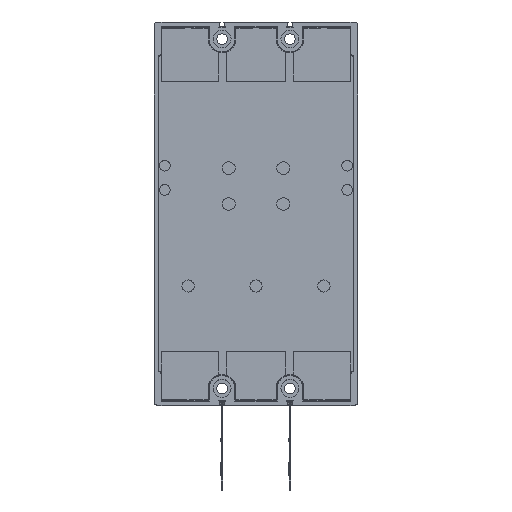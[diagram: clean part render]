
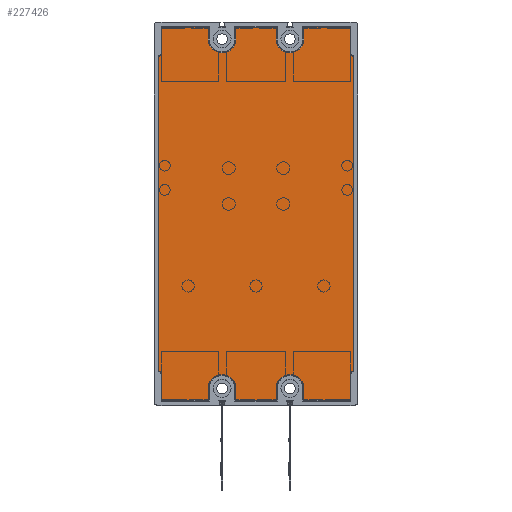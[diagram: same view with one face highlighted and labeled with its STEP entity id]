
A CAD part, top view. The second image highlights one B-rep face of the part: STEP entity #227426.
In plain terms, the highlighted planar face has unit normal (0, 0, 1).
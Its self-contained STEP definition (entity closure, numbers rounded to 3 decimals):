
#37750=CARTESIAN_POINT('',(204.85,32.75,65.5));
#37751=DIRECTION('',(0.,0.,-1.));
#37752=DIRECTION('',(-1.,0.,0.));
#37753=AXIS2_PLACEMENT_3D('',#37750,#37751,#37752);
#38140=CARTESIAN_POINT('',(5.15,32.75,65.5));
#38141=DIRECTION('',(0.,0.,-1.));
#38142=DIRECTION('',(0.,1.,0.));
#38143=AXIS2_PLACEMENT_3D('',#38140,#38141,#38142);
#38197=CARTESIAN_POINT('',(5.15,362.25,65.5));
#38198=DIRECTION('',(0.,0.,-1.));
#38199=DIRECTION('',(1.,0.,0.));
#38200=AXIS2_PLACEMENT_3D('',#38197,#38198,#38199);
#71326=CARTESIAN_POINT('',(204.85,362.25,65.5));
#71327=DIRECTION('',(0.,0.,-1.));
#71328=DIRECTION('',(0.,-1.,0.));
#71329=AXIS2_PLACEMENT_3D('',#71326,#71327,#71328);
#71348=DIRECTION('',(1.,0.,0.));
#71349=VECTOR('',#71348,48.1);
#71350=CARTESIAN_POINT('',(7.65,389.75,65.5));
#71351=LINE('',#71350,#71349);
#71352=DIRECTION('',(0.,1.,0.));
#71353=VECTOR('',#71352,12.25);
#71354=CARTESIAN_POINT('',(55.75,377.5,65.5));
#71355=LINE('',#71354,#71353);
#71356=CARTESIAN_POINT('',(70.,377.5,65.5));
#71357=DIRECTION('',(0.,0.,-1.));
#71358=DIRECTION('',(1.,0.,0.));
#71359=AXIS2_PLACEMENT_3D('',#71356,#71357,#71358);
#71361=DIRECTION('',(0.,-1.,0.));
#71362=VECTOR('',#71361,12.25);
#71363=CARTESIAN_POINT('',(84.25,389.75,65.5));
#71364=LINE('',#71363,#71362);
#71365=DIRECTION('',(1.,0.,0.));
#71366=VECTOR('',#71365,41.5);
#71367=CARTESIAN_POINT('',(84.25,389.75,65.5));
#71368=LINE('',#71367,#71366);
#71369=DIRECTION('',(0.,1.,0.));
#71370=VECTOR('',#71369,12.25);
#71371=CARTESIAN_POINT('',(125.75,377.5,65.5));
#71372=LINE('',#71371,#71370);
#71373=CARTESIAN_POINT('',(140.,377.5,65.5));
#71374=DIRECTION('',(0.,0.,-1.));
#71375=DIRECTION('',(1.,0.,0.));
#71376=AXIS2_PLACEMENT_3D('',#71373,#71374,#71375);
#71378=DIRECTION('',(0.,-1.,0.));
#71379=VECTOR('',#71378,12.25);
#71380=CARTESIAN_POINT('',(154.25,389.75,65.5));
#71381=LINE('',#71380,#71379);
#71382=DIRECTION('',(1.,0.,0.));
#71383=VECTOR('',#71382,48.1);
#71384=CARTESIAN_POINT('',(154.25,389.75,65.5));
#71385=LINE('',#71384,#71383);
#71386=DIRECTION('',(0.,1.,0.));
#71387=VECTOR('',#71386,27.5);
#71388=CARTESIAN_POINT('',(202.35,362.25,65.5));
#71389=LINE('',#71388,#71387);
#71390=DIRECTION('',(-1.,0.,0.));
#71391=VECTOR('',#71390,0.4);
#71392=CARTESIAN_POINT('',(205.25,359.75,65.5));
#71393=LINE('',#71392,#71391);
#71394=DIRECTION('',(0.,1.,0.));
#71395=VECTOR('',#71394,324.5);
#71396=CARTESIAN_POINT('',(205.25,35.25,65.5));
#71397=LINE('',#71396,#71395);
#71398=DIRECTION('',(1.,0.,0.));
#71399=VECTOR('',#71398,0.4);
#71400=CARTESIAN_POINT('',(204.85,35.25,65.5));
#71401=LINE('',#71400,#71399);
#71402=DIRECTION('',(0.,1.,0.));
#71403=VECTOR('',#71402,27.5);
#71404=CARTESIAN_POINT('',(202.35,5.25,65.5));
#71405=LINE('',#71404,#71403);
#71406=DIRECTION('',(-1.,0.,0.));
#71407=VECTOR('',#71406,48.1);
#71408=CARTESIAN_POINT('',(202.35,5.25,65.5));
#71409=LINE('',#71408,#71407);
#71410=DIRECTION('',(0.,-1.,0.));
#71411=VECTOR('',#71410,12.25);
#71412=CARTESIAN_POINT('',(154.25,17.5,65.5));
#71413=LINE('',#71412,#71411);
#71414=CARTESIAN_POINT('',(140.,17.5,65.5));
#71415=DIRECTION('',(0.,0.,-1.));
#71416=DIRECTION('',(-1.,0.,0.));
#71417=AXIS2_PLACEMENT_3D('',#71414,#71415,#71416);
#71419=DIRECTION('',(0.,1.,0.));
#71420=VECTOR('',#71419,12.25);
#71421=CARTESIAN_POINT('',(125.75,5.25,65.5));
#71422=LINE('',#71421,#71420);
#71423=DIRECTION('',(-1.,0.,0.));
#71424=VECTOR('',#71423,41.5);
#71425=CARTESIAN_POINT('',(125.75,5.25,65.5));
#71426=LINE('',#71425,#71424);
#71427=DIRECTION('',(0.,-1.,0.));
#71428=VECTOR('',#71427,12.25);
#71429=CARTESIAN_POINT('',(84.25,17.5,65.5));
#71430=LINE('',#71429,#71428);
#71431=CARTESIAN_POINT('',(70.,17.5,65.5));
#71432=DIRECTION('',(0.,0.,-1.));
#71433=DIRECTION('',(-1.,0.,0.));
#71434=AXIS2_PLACEMENT_3D('',#71431,#71432,#71433);
#71436=DIRECTION('',(0.,1.,0.));
#71437=VECTOR('',#71436,12.25);
#71438=CARTESIAN_POINT('',(55.75,5.25,65.5));
#71439=LINE('',#71438,#71437);
#71440=DIRECTION('',(-1.,0.,0.));
#71441=VECTOR('',#71440,48.1);
#71442=CARTESIAN_POINT('',(55.75,5.25,65.5));
#71443=LINE('',#71442,#71441);
#71444=DIRECTION('',(0.,-1.,0.));
#71445=VECTOR('',#71444,27.5);
#71446=CARTESIAN_POINT('',(7.65,32.75,65.5));
#71447=LINE('',#71446,#71445);
#71448=DIRECTION('',(1.,0.,0.));
#71449=VECTOR('',#71448,0.4);
#71450=CARTESIAN_POINT('',(4.75,35.25,65.5));
#71451=LINE('',#71450,#71449);
#71452=DIRECTION('',(0.,-1.,0.));
#71453=VECTOR('',#71452,324.5);
#71454=CARTESIAN_POINT('',(4.75,359.75,65.5));
#71455=LINE('',#71454,#71453);
#71456=DIRECTION('',(-1.,0.,0.));
#71457=VECTOR('',#71456,0.4);
#71458=CARTESIAN_POINT('',(5.15,359.75,65.5));
#71459=LINE('',#71458,#71457);
#71460=DIRECTION('',(0.,-1.,0.));
#71461=VECTOR('',#71460,27.5);
#71462=CARTESIAN_POINT('',(7.65,389.75,65.5));
#71463=LINE('',#71462,#71461);
#123145=CARTESIAN_POINT('',(4.75,359.75,65.5));
#123146=CARTESIAN_POINT('',(4.75,35.25,65.5));
#123147=VERTEX_POINT('',#123145);
#123148=VERTEX_POINT('',#123146);
#123149=CARTESIAN_POINT('',(55.75,17.5,65.5));
#123150=CARTESIAN_POINT('',(84.25,17.5,65.5));
#123151=VERTEX_POINT('',#123149);
#123152=VERTEX_POINT('',#123150);
#123153=CARTESIAN_POINT('',(125.75,17.5,65.5));
#123154=CARTESIAN_POINT('',(154.25,17.5,65.5));
#123155=VERTEX_POINT('',#123153);
#123156=VERTEX_POINT('',#123154);
#123157=CARTESIAN_POINT('',(205.25,35.25,65.5));
#123158=CARTESIAN_POINT('',(205.25,359.75,65.5));
#123159=VERTEX_POINT('',#123157);
#123160=VERTEX_POINT('',#123158);
#123161=CARTESIAN_POINT('',(154.25,377.5,65.5));
#123162=CARTESIAN_POINT('',(125.75,377.5,65.5));
#123163=VERTEX_POINT('',#123161);
#123164=VERTEX_POINT('',#123162);
#123165=CARTESIAN_POINT('',(84.25,377.5,65.5));
#123166=CARTESIAN_POINT('',(55.75,377.5,65.5));
#123167=VERTEX_POINT('',#123165);
#123168=VERTEX_POINT('',#123166);
#123186=CARTESIAN_POINT('',(7.65,362.25,65.5));
#123188=VERTEX_POINT('',#123186);
#123190=CARTESIAN_POINT('',(202.35,362.25,65.5));
#123192=VERTEX_POINT('',#123190);
#123194=CARTESIAN_POINT('',(202.35,32.75,65.5));
#123196=VERTEX_POINT('',#123194);
#123198=CARTESIAN_POINT('',(7.65,32.75,65.5));
#123200=VERTEX_POINT('',#123198);
#123201=CARTESIAN_POINT('',(5.15,359.75,65.5));
#123202=VERTEX_POINT('',#123201);
#123203=CARTESIAN_POINT('',(5.15,35.25,65.5));
#123204=VERTEX_POINT('',#123203);
#123205=CARTESIAN_POINT('',(204.85,35.25,65.5));
#123206=VERTEX_POINT('',#123205);
#123207=CARTESIAN_POINT('',(204.85,359.75,65.5));
#123208=VERTEX_POINT('',#123207);
#123209=CARTESIAN_POINT('',(7.65,389.75,65.5));
#123210=CARTESIAN_POINT('',(55.75,389.75,65.5));
#123211=VERTEX_POINT('',#123209);
#123212=VERTEX_POINT('',#123210);
#123213=CARTESIAN_POINT('',(84.25,389.75,65.5));
#123214=CARTESIAN_POINT('',(125.75,389.75,65.5));
#123215=VERTEX_POINT('',#123213);
#123216=VERTEX_POINT('',#123214);
#123217=CARTESIAN_POINT('',(154.25,389.75,65.5));
#123218=CARTESIAN_POINT('',(202.35,389.75,65.5));
#123219=VERTEX_POINT('',#123217);
#123220=VERTEX_POINT('',#123218);
#123221=CARTESIAN_POINT('',(202.35,5.25,65.5));
#123222=CARTESIAN_POINT('',(154.25,5.25,65.5));
#123223=VERTEX_POINT('',#123221);
#123224=VERTEX_POINT('',#123222);
#123225=CARTESIAN_POINT('',(125.75,5.25,65.5));
#123226=CARTESIAN_POINT('',(84.25,5.25,65.5));
#123227=VERTEX_POINT('',#123225);
#123228=VERTEX_POINT('',#123226);
#123229=CARTESIAN_POINT('',(55.75,5.25,65.5));
#123230=CARTESIAN_POINT('',(7.65,5.25,65.5));
#123231=VERTEX_POINT('',#123229);
#123232=VERTEX_POINT('',#123230);
#227369=CARTESIAN_POINT('',(105.,197.5,65.5));
#227370=DIRECTION('',(0.,0.,1.));
#227371=DIRECTION('',(1.,0.,0.));
#227372=AXIS2_PLACEMENT_3D('',#227369,#227370,#227371);
#227373=PLANE('',#227372);
#227375=ORIENTED_EDGE('',*,*,#227374,.T.);
#227377=ORIENTED_EDGE('',*,*,#227376,.F.);
#227379=ORIENTED_EDGE('',*,*,#227378,.F.);
#227381=ORIENTED_EDGE('',*,*,#227380,.F.);
#227383=ORIENTED_EDGE('',*,*,#227382,.T.);
#227385=ORIENTED_EDGE('',*,*,#227384,.F.);
#227387=ORIENTED_EDGE('',*,*,#227386,.F.);
#227389=ORIENTED_EDGE('',*,*,#227388,.F.);
#227391=ORIENTED_EDGE('',*,*,#227390,.T.);
#227393=ORIENTED_EDGE('',*,*,#227392,.F.);
#227394=ORIENTED_EDGE('',*,*,#227334,.F.);
#227395=ORIENTED_EDGE('',*,*,#227350,.F.);
#227396=ORIENTED_EDGE('',*,*,#227363,.F.);
#227397=ORIENTED_EDGE('',*,*,#177056,.F.);
#227398=ORIENTED_EDGE('',*,*,#177072,.F.);
#227399=ORIENTED_EDGE('',*,*,#177087,.F.);
#227401=ORIENTED_EDGE('',*,*,#227400,.T.);
#227402=ORIENTED_EDGE('',*,*,#177124,.F.);
#227403=ORIENTED_EDGE('',*,*,#177142,.F.);
#227405=ORIENTED_EDGE('',*,*,#227404,.F.);
#227407=ORIENTED_EDGE('',*,*,#227406,.T.);
#227409=ORIENTED_EDGE('',*,*,#227408,.F.);
#227410=ORIENTED_EDGE('',*,*,#177507,.F.);
#227411=ORIENTED_EDGE('',*,*,#177524,.F.);
#227413=ORIENTED_EDGE('',*,*,#227412,.T.);
#227414=ORIENTED_EDGE('',*,*,#177561,.F.);
#227415=ORIENTED_EDGE('',*,*,#177577,.F.);
#227417=ORIENTED_EDGE('',*,*,#227416,.F.);
#227419=ORIENTED_EDGE('',*,*,#227418,.F.);
#227420=ORIENTED_EDGE('',*,*,#177621,.F.);
#227421=ORIENTED_EDGE('',*,*,#177638,.F.);
#227423=ORIENTED_EDGE('',*,*,#227422,.F.);
#227424=EDGE_LOOP('',(#227375,#227377,#227379,#227381,#227383,#227385,#227387,
#227389,#227391,#227393,#227394,#227395,#227396,#227397,#227398,#227399,#227401,
#227402,#227403,#227405,#227407,#227409,#227410,#227411,#227413,#227414,#227415,
#227417,#227419,#227420,#227421,#227423));
#227425=FACE_OUTER_BOUND('',#227424,.F.);
#227426=ADVANCED_FACE('',(#227425),#227373,.T.);
#37754=CIRCLE('',#37753,2.5);
#38144=CIRCLE('',#38143,2.5);
#38201=CIRCLE('',#38200,2.5);
#71330=CIRCLE('',#71329,2.5);
#71360=CIRCLE('',#71359,14.25);
#71377=CIRCLE('',#71376,14.25);
#71418=CIRCLE('',#71417,14.25);
#71435=CIRCLE('',#71434,14.25);
#177056=EDGE_CURVE('',#123206,#123159,#71401,.T.);
#177072=EDGE_CURVE('',#123196,#123206,#37754,.T.);
#177087=EDGE_CURVE('',#123223,#123196,#71405,.T.);
#177124=EDGE_CURVE('',#123156,#123224,#71413,.T.);
#177142=EDGE_CURVE('',#123155,#123156,#71418,.T.);
#177507=EDGE_CURVE('',#123151,#123152,#71435,.T.);
#177524=EDGE_CURVE('',#123231,#123151,#71439,.T.);
#177561=EDGE_CURVE('',#123200,#123232,#71447,.T.);
#177577=EDGE_CURVE('',#123204,#123200,#38144,.T.);
#177621=EDGE_CURVE('',#123202,#123147,#71459,.T.);
#177638=EDGE_CURVE('',#123188,#123202,#38201,.T.);
#227334=EDGE_CURVE('',#123208,#123192,#71330,.T.);
#227350=EDGE_CURVE('',#123160,#123208,#71393,.T.);
#227363=EDGE_CURVE('',#123159,#123160,#71397,.T.);
#227374=EDGE_CURVE('',#123211,#123212,#71351,.T.);
#227376=EDGE_CURVE('',#123168,#123212,#71355,.T.);
#227378=EDGE_CURVE('',#123167,#123168,#71360,.T.);
#227380=EDGE_CURVE('',#123215,#123167,#71364,.T.);
#227382=EDGE_CURVE('',#123215,#123216,#71368,.T.);
#227384=EDGE_CURVE('',#123164,#123216,#71372,.T.);
#227386=EDGE_CURVE('',#123163,#123164,#71377,.T.);
#227388=EDGE_CURVE('',#123219,#123163,#71381,.T.);
#227390=EDGE_CURVE('',#123219,#123220,#71385,.T.);
#227392=EDGE_CURVE('',#123192,#123220,#71389,.T.);
#227400=EDGE_CURVE('',#123223,#123224,#71409,.T.);
#227404=EDGE_CURVE('',#123227,#123155,#71422,.T.);
#227406=EDGE_CURVE('',#123227,#123228,#71426,.T.);
#227408=EDGE_CURVE('',#123152,#123228,#71430,.T.);
#227412=EDGE_CURVE('',#123231,#123232,#71443,.T.);
#227416=EDGE_CURVE('',#123148,#123204,#71451,.T.);
#227418=EDGE_CURVE('',#123147,#123148,#71455,.T.);
#227422=EDGE_CURVE('',#123211,#123188,#71463,.T.);
